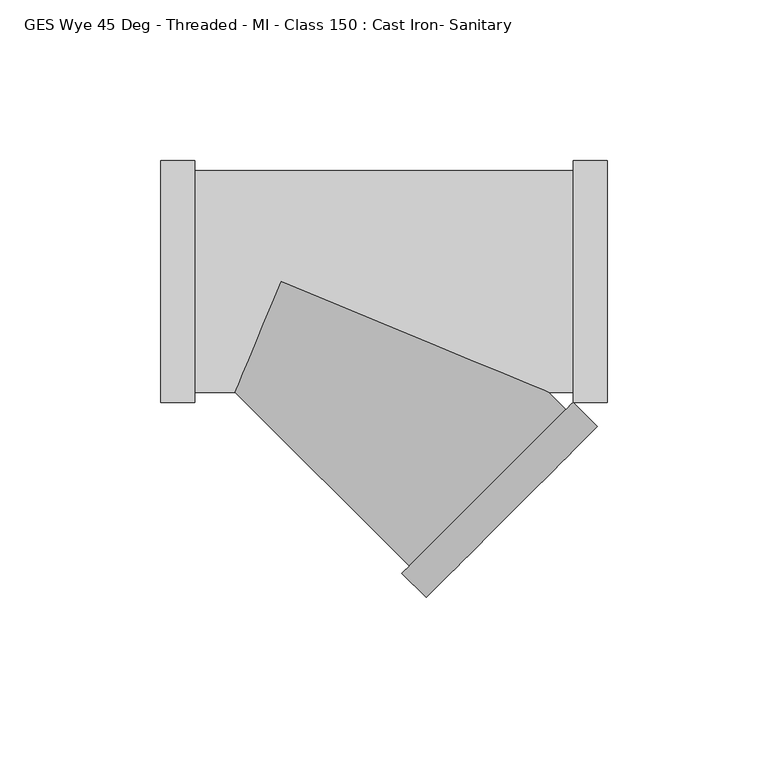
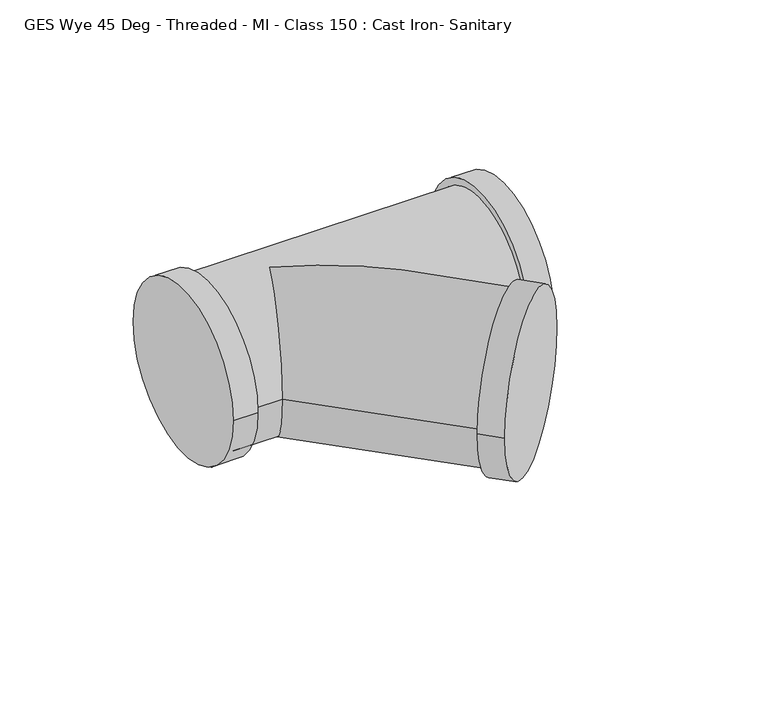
"""IFC4 building model written with IfcOpenShell, lengths in millimetres: pipe fitting geometry, GES Wye 45 Deg - Threaded - MI - Class 150 : Cast Iron- Sanitary."""

from ifc_helpers import new_model, si_unit, frame, origin, place, context, project, spatial, circle_curve, ellipse_curve, source, transform, mapped, element, save
from ifc_brep_helpers import plane_surface, cylinder_surface, advanced_brep


def ges_wye_45_deg_threaded_mi_class_150_cast_iron_sanitary_d237d51e(model_context):
    return source(origin(), model_context, "Body", "AdvancedBrep", [
        advanced_brep(
        [(39.8466037, -88.6953284, 0.0), (88.6942197, -39.8490715, 0.0), (83.3852959, -34.54, 0.0), (0.0, 0.0, 34.54), (-14.3072179, -34.54, 0.0), (0.0, 0.0, -34.54), (37.647471, -90.8943999, 0.0), (90.8933524, -37.65, 0.0), (45.2134083, -98.4605477, 0.0), (98.4592897, -45.2161478, 0.0), (-26.8, 34.54, 0.0), (90.8933524, 34.54, 0.0), (90.8933524, -34.54, 0.0), (-26.8, -34.54, 0.0), (-26.8, -37.65, 0.0), (-26.8, 37.65, 0.0), (-37.5, -37.65, 0.0), (-37.5, 37.65, 0.0), (90.8933524, -37.65, 0.0), (90.8933524, 37.65, 0.0), (101.5933524, -37.65, 0.0), (101.5933524, 37.65, 0.0)],
        [
            (0, 1, circle_curve(frame((64.2704117, -64.2721999, 0.0), z_axis=(-0.7070969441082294, 0.7071166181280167, 0.0), x_axis=(0.7071166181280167, 0.7070969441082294, 0.0)), 34.54)),
            (1, 2),
            (2, 3, ellipse_curve(frame((0.0, 0.0, 0.0), z_axis=(-0.3826898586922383, -0.9238768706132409, 0.0), x_axis=(-0.9238768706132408, 0.38268985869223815, 0.0)), 90.255854, 34.54)),
            (3, 4, ellipse_curve(frame((0.0, 0.0, 0.0), z_axis=(0.9238768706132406, -0.38268985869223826, 0.0), x_axis=(0.38268985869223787, 0.9238768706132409, 0.0)), 37.3859343, 34.54)),
            (4, 0),
            (1, 0, circle_curve(frame((64.2704117, -64.2721999, 0.0), z_axis=(-0.7070969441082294, 0.7071166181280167, 0.0), x_axis=(0.7071166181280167, 0.7070969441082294, 0.0)), 34.54)),
            (4, 5, ellipse_curve(frame((0.0, 0.0, 0.0), z_axis=(0.9238768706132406, -0.38268985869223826, 0.0), x_axis=(0.38268985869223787, 0.9238768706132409, 0.0)), 37.3859343, 34.54)),
            (5, 2, ellipse_curve(frame((0.0, 0.0, 0.0), z_axis=(-0.3826898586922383, -0.9238768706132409, 0.0), x_axis=(-0.9238768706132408, 0.38268985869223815, 0.0)), 90.255854, 34.54)),
            (6, 7, circle_curve(frame((64.2704117, -64.2721999, 0.0), z_axis=(-0.7070969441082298, 0.7071166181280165, 0.0), x_axis=(0.7071166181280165, 0.7070969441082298, 0.0)), 37.65)),
            (7, 6, circle_curve(frame((64.2704117, -64.2721999, 0.0), z_axis=(-0.7070969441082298, 0.7071166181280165, 0.0), x_axis=(0.7071166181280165, 0.7070969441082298, 0.0)), 37.65)),
            (8, 9, circle_curve(frame((71.836349, -71.8383478, 0.0), z_axis=(0.7070969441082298, -0.7071166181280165, 0.0), x_axis=(0.7071166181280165, 0.7070969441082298, 0.0)), 37.65)),
            (9, 8, circle_curve(frame((71.836349, -71.8383478, 0.0), z_axis=(0.7070969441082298, -0.7071166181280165, 0.0), x_axis=(0.7071166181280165, 0.7070969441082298, 0.0)), 37.65)),
            (6, 8),
            (9, 7),
            (10, 11),
            (11, 12, circle_curve(frame((90.8933524, 0.0, 0.0), z_axis=(-1.0, 0.0, 0.0), x_axis=(0.0, 1.0, 0.0)), 34.54)),
            (12, 2),
            (4, 13),
            (13, 10, circle_curve(frame((-26.8, 0.0, 0.0), z_axis=(1.0, 0.0, 0.0), x_axis=(0.0, 1.0, 0.0)), 34.54)),
            (10, 13, circle_curve(frame((-26.8, 0.0, 0.0), z_axis=(1.0, 0.0, 0.0), x_axis=(0.0, 1.0, 0.0)), 34.54)),
            (12, 11, circle_curve(frame((90.8933524, 0.0, 0.0), z_axis=(-1.0, 0.0, 0.0), x_axis=(0.0, 1.0, 0.0)), 34.54)),
            (14, 15, circle_curve(frame((-26.8, 0.0, 0.0), z_axis=(1.0, 0.0, 0.0), x_axis=(0.0, 1.0, 0.0)), 37.65)),
            (15, 14, circle_curve(frame((-26.8, 0.0, 0.0), z_axis=(1.0, 0.0, 0.0), x_axis=(0.0, 1.0, 0.0)), 37.65)),
            (16, 17, circle_curve(frame((-37.5, 0.0, 0.0), z_axis=(-1.0, 0.0, 0.0), x_axis=(0.0, 1.0, 0.0)), 37.65)),
            (17, 16, circle_curve(frame((-37.5, 0.0, 0.0), z_axis=(-1.0, 0.0, 0.0), x_axis=(0.0, 1.0, 0.0)), 37.65)),
            (14, 16),
            (17, 15),
            (18, 19, circle_curve(frame((90.8933524, 0.0, 0.0), z_axis=(-1.0, 0.0, 0.0), x_axis=(0.0, 1.0, 0.0)), 37.65)),
            (19, 18, circle_curve(frame((90.8933524, 0.0, 0.0), z_axis=(-1.0, 0.0, 0.0), x_axis=(0.0, 1.0, 0.0)), 37.65)),
            (20, 21, circle_curve(frame((101.5933524, 0.0, 0.0), z_axis=(1.0, 0.0, 0.0), x_axis=(0.0, 1.0, 0.0)), 37.65)),
            (21, 20, circle_curve(frame((101.5933524, 0.0, 0.0), z_axis=(1.0, 0.0, 0.0), x_axis=(0.0, 1.0, 0.0)), 37.65)),
            (19, 21),
            (20, 18),
        ],
        [
            cylinder_surface(frame((0.0, 0.0, 0.0), z_axis=(-0.7070969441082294, 0.7071166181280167, 0.0), x_axis=(0.7071166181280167, 0.7070969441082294, 0.0)), 34.54),
            plane_surface(frame((64.2704117, -64.2721999, 0.0), z_axis=(-0.7070969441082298, 0.7071166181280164, 0.0), x_axis=(0.0, 0.0, 1.0))),
            plane_surface(frame((71.836349, -71.8383478, 0.0), z_axis=(0.7070969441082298, -0.7071166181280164, 0.0), x_axis=(0.0, 0.0, 1.0))),
            cylinder_surface(frame((64.2704117, -64.2721999, 0.0), z_axis=(-0.7070969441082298, 0.7071166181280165, 0.0), x_axis=(0.7071166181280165, 0.7070969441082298, 0.0)), 37.65),
            cylinder_surface(frame((-26.8, 0.0, 0.0), z_axis=(1.0, 0.0, 0.0), x_axis=(0.0, 1.0, 0.0)), 34.54),
            plane_surface(frame((-26.8, 37.65, 0.0), z_axis=(1.0, 0.0, 0.0), x_axis=(0.0, 0.0, 1.0))),
            plane_surface(frame((-37.5, 37.65, 0.0), z_axis=(-1.0, 0.0, 0.0), x_axis=(0.0, 0.0, -1.0))),
            cylinder_surface(frame((-37.5, 0.0, 0.0), z_axis=(1.0, 0.0, 0.0), x_axis=(0.0, 1.0, 0.0)), 37.65),
            plane_surface(frame((90.8933524, 37.65, 0.0), z_axis=(-1.0, 0.0, 0.0), x_axis=(0.0, 0.0, -1.0))),
            plane_surface(frame((101.5933524, 37.65, 0.0), z_axis=(1.0, 0.0, 0.0), x_axis=(0.0, 0.0, 1.0))),
            cylinder_surface(frame((90.8933524, 0.0, 0.0), z_axis=(1.0, 0.0, 0.0), x_axis=(0.0, 1.0, 0.0)), 37.65),
        ],
        [
            (0, [[1, 2, 3, 4, 5]]),
            (0, [[6, -5, 7, 8, -2]]),
            (1, [[9, 10], [-1, -6]]),
            (2, [[11, 12]]),
            (3, [[-9, 13, -12, 14]]),
            (3, [[-10, -14, -11, -13]]),
            (4, [[15, 16, 17, -8, -7, 18, 19]]),
            (4, [[-15, 20, -18, -4, -3, -17, 21]]),
            (5, [[22, 23], [-19, -20]]),
            (6, [[24, 25]]),
            (7, [[-22, 26, -25, 27]]),
            (7, [[-23, -27, -24, -26]]),
            (8, [[28, 29], [-16, -21]]),
            (9, [[30, 31]]),
            (10, [[-29, 32, -30, 33]]),
            (10, [[-28, -33, -31, -32]]),
        ],
    ),
    ])


if __name__ == "__main__":
    model = new_model("IFC4")
    model_context = context("Model", 3, world=origin())
    ifc_project = project(units=[si_unit("LENGTHUNIT", "METRE", prefix="MILLI")], contexts=[model_context])
    site = spatial("IfcSite", under=ifc_project)
    building = spatial("IfcBuilding", under=site)
    placement = place(None, origin())
    ges_wye_45_deg_threaded_mi_class_150_cast_iron_sanitary_shape = ges_wye_45_deg_threaded_mi_class_150_cast_iron_sanitary_d237d51e(model_context)
    element("IfcPipeFitting", 1, ObjectType="GES Wye 45 Deg - Threaded - MI - Class 150 : Cast Iron- Sanitary", at=placement, inside=building, context=model_context, shape_type="MappedRepresentation", body=[
        mapped(ges_wye_45_deg_threaded_mi_class_150_cast_iron_sanitary_shape, transform((0.0, 0.0, 0.0), x_axis=(1.0, 0.0, 0.0), y_axis=(0.0, 1.0, 0.0), z_axis=(0.0, 0.0, 1.0))),
    ])
    save(model, "model.ifc")
